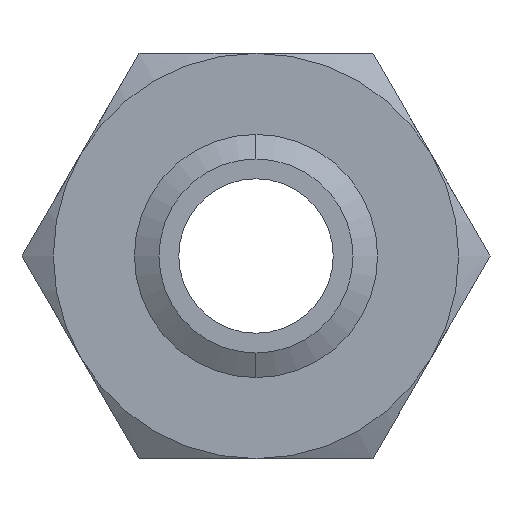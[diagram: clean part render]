
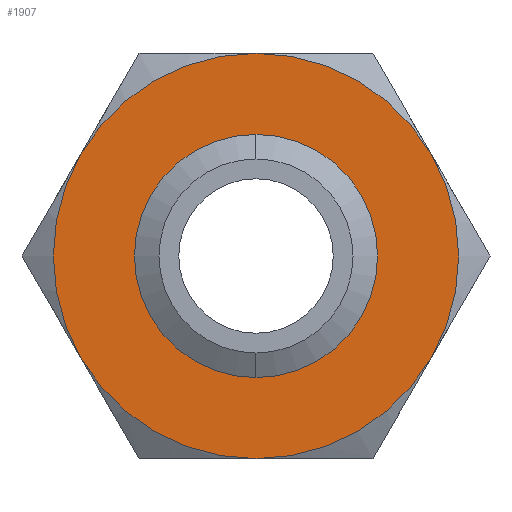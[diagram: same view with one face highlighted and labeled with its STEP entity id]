
A CAD part, front view. The second image highlights one B-rep face of the part: STEP entity #1907.
In plain terms, the highlighted planar face has unit normal (0, -1, 0).
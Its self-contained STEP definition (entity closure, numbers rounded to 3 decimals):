
#73 = VERTEX_POINT ( 'NONE', #321 ) ;
#112 = EDGE_CURVE ( 'NONE', #73, #113, #381, .T. ) ;
#113 = VERTEX_POINT ( 'NONE', #377 ) ;
#321 = CARTESIAN_POINT ( 'NONE',  ( 0., 0., -11.969 ) ) ;
#377 = CARTESIAN_POINT ( 'NONE',  ( 0., 0., 11.969 ) ) ;
#378 = DIRECTION ( 'NONE',  ( 0., 0., -1. ) ) ;
#379 = DIRECTION ( 'NONE',  ( 0., -1., 0. ) ) ;
#380 = AXIS2_PLACEMENT_3D ( 'NONE', #387, #379, #378 ) ;
#381 = CIRCLE ( 'NONE', #380, 11.969 ) ;
#387 = CARTESIAN_POINT ( 'NONE',  ( 0., 0., 0. ) ) ;
#624 = AXIS2_PLACEMENT_3D ( 'NONE', #687, #686, #685 ) ;
#625 = CIRCLE ( 'NONE', #624, 25. ) ;
#626 = CARTESIAN_POINT ( 'NONE',  ( 21.651, 0., -12.5 ) ) ;
#632 = CARTESIAN_POINT ( 'NONE',  ( -21.651, 0., -12.5 ) ) ;
#663 = DIRECTION ( 'NONE',  ( 0., 0., 1. ) ) ;
#664 = DIRECTION ( 'NONE',  ( 0., 1., 0. ) ) ;
#665 = CARTESIAN_POINT ( 'NONE',  ( 0., 0., 0. ) ) ;
#666 = AXIS2_PLACEMENT_3D ( 'NONE', #665, #664, #663 ) ;
#667 = CIRCLE ( 'NONE', #666, 25. ) ;
#674 = DIRECTION ( 'NONE',  ( 0., 0., 1. ) ) ;
#675 = DIRECTION ( 'NONE',  ( 0., 1., 0. ) ) ;
#676 = CARTESIAN_POINT ( 'NONE',  ( 0., 0., 0. ) ) ;
#677 = AXIS2_PLACEMENT_3D ( 'NONE', #676, #675, #674 ) ;
#678 = CIRCLE ( 'NONE', #677, 25. ) ;
#684 = CARTESIAN_POINT ( 'NONE',  ( 0., 0., -25. ) ) ;
#685 = DIRECTION ( 'NONE',  ( 0., 0., 1. ) ) ;
#686 = DIRECTION ( 'NONE',  ( 0., 1., 0. ) ) ;
#687 = CARTESIAN_POINT ( 'NONE',  ( 0., 0., 0. ) ) ;
#703 = DIRECTION ( 'NONE',  ( 0., 0., 1. ) ) ;
#704 = DIRECTION ( 'NONE',  ( 0., 1., 0. ) ) ;
#705 = CARTESIAN_POINT ( 'NONE',  ( 0., 0., 0. ) ) ;
#706 = AXIS2_PLACEMENT_3D ( 'NONE', #705, #704, #703 ) ;
#707 = CIRCLE ( 'NONE', #706, 25. ) ;
#708 = DIRECTION ( 'NONE',  ( 0., 0., -1. ) ) ;
#709 = DIRECTION ( 'NONE',  ( 0., -1., 0. ) ) ;
#710 = CARTESIAN_POINT ( 'NONE',  ( 0., 0., 0. ) ) ;
#711 = AXIS2_PLACEMENT_3D ( 'NONE', #710, #709, #708 ) ;
#712 = CIRCLE ( 'NONE', #711, 11.969 ) ;
#1103 = DIRECTION ( 'NONE',  ( 0., 0., 1. ) ) ;
#1104 = DIRECTION ( 'NONE',  ( 0., 1., 0. ) ) ;
#1105 = CARTESIAN_POINT ( 'NONE',  ( 0., 0., 0. ) ) ;
#1106 = AXIS2_PLACEMENT_3D ( 'NONE', #1105, #1104, #1103 ) ;
#1107 = CIRCLE ( 'NONE', #1106, 25. ) ;
#1112 = CARTESIAN_POINT ( 'NONE',  ( 21.651, 0., 12.5 ) ) ;
#1113 = CARTESIAN_POINT ( 'NONE',  ( 0., 0., 25. ) ) ;
#1160 = DIRECTION ( 'NONE',  ( 0., 0., 1. ) ) ;
#1161 = DIRECTION ( 'NONE',  ( 0., 1., 0. ) ) ;
#1162 = CARTESIAN_POINT ( 'NONE',  ( 14.434, 0., -25. ) ) ;
#1163 = AXIS2_PLACEMENT_3D ( 'NONE', #1162, #1161, #1160 ) ;
#1164 = PLANE ( 'NONE',  #1163 ) ;
#1165 = FACE_BOUND ( 'NONE', #1709, .T. ) ;
#1166 = FACE_OUTER_BOUND ( 'NONE', #1906, .T. ) ;
#1205 = CARTESIAN_POINT ( 'NONE',  ( -21.651, 0., 12.5 ) ) ;
#1246 = DIRECTION ( 'NONE',  ( 0., 0., 1. ) ) ;
#1247 = DIRECTION ( 'NONE',  ( 0., 1., 0. ) ) ;
#1248 = CARTESIAN_POINT ( 'NONE',  ( 0., 0., 0. ) ) ;
#1249 = AXIS2_PLACEMENT_3D ( 'NONE', #1248, #1247, #1246 ) ;
#1250 = CIRCLE ( 'NONE', #1249, 25. ) ;
#1689 = VERTEX_POINT ( 'NONE', #632 ) ;
#1691 = VERTEX_POINT ( 'NONE', #626 ) ;
#1692 = ORIENTED_EDGE ( 'NONE', *, *, #1693, .F. ) ;
#1693 = EDGE_CURVE ( 'NONE', #1695, #1689, #625, .T. ) ;
#1695 = VERTEX_POINT ( 'NONE', #684 ) ;
#1697 = EDGE_CURVE ( 'NONE', #1689, #1953, #678, .T. ) ;
#1701 = EDGE_CURVE ( 'NONE', #1691, #1695, #667, .T. ) ;
#1702 = ORIENTED_EDGE ( 'NONE', *, *, #1701, .F. ) ;
#1706 = EDGE_CURVE ( 'NONE', #113, #73, #712, .T. ) ;
#1707 = ORIENTED_EDGE ( 'NONE', *, *, #1706, .F. ) ;
#1708 = ORIENTED_EDGE ( 'NONE', *, *, #112, .F. ) ;
#1709 = EDGE_LOOP ( 'NONE', ( #1708, #1707 ) ) ;
#1710 = EDGE_CURVE ( 'NONE', #1902, #1691, #707, .T. ) ;
#1711 = ORIENTED_EDGE ( 'NONE', *, *, #1710, .F. ) ;
#1901 = VERTEX_POINT ( 'NONE', #1113 ) ;
#1902 = VERTEX_POINT ( 'NONE', #1112 ) ;
#1904 = ORIENTED_EDGE ( 'NONE', *, *, #1905, .F. ) ;
#1905 = EDGE_CURVE ( 'NONE', #1901, #1902, #1107, .T. ) ;
#1906 = EDGE_LOOP ( 'NONE', ( #1904, #1963, #1966, #1692, #1702, #1711 ) ) ;
#1907 = ADVANCED_FACE ( 'NONE', ( #1166, #1165 ), #1164, .F. ) ;
#1953 = VERTEX_POINT ( 'NONE', #1205 ) ;
#1957 = EDGE_CURVE ( 'NONE', #1953, #1901, #1250, .T. ) ;
#1963 = ORIENTED_EDGE ( 'NONE', *, *, #1957, .F. ) ;
#1966 = ORIENTED_EDGE ( 'NONE', *, *, #1697, .F. ) ;
